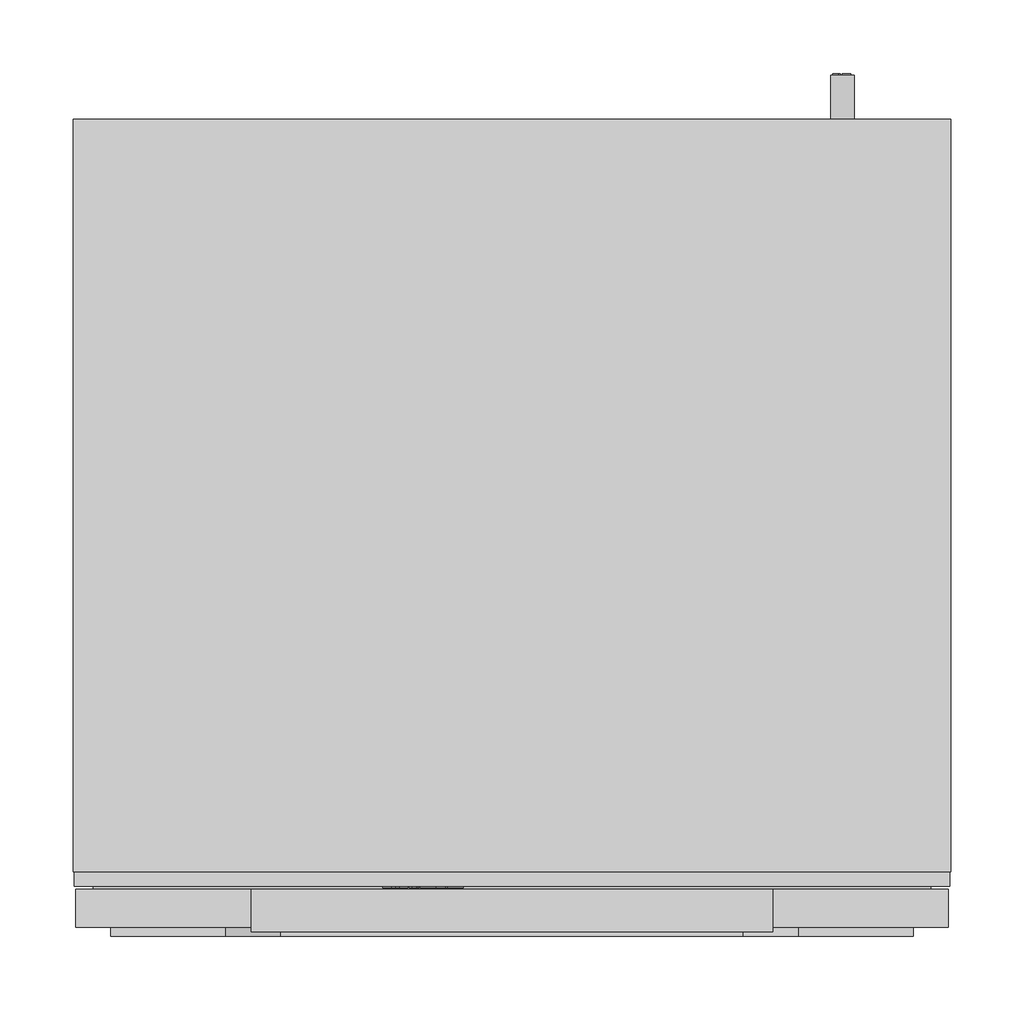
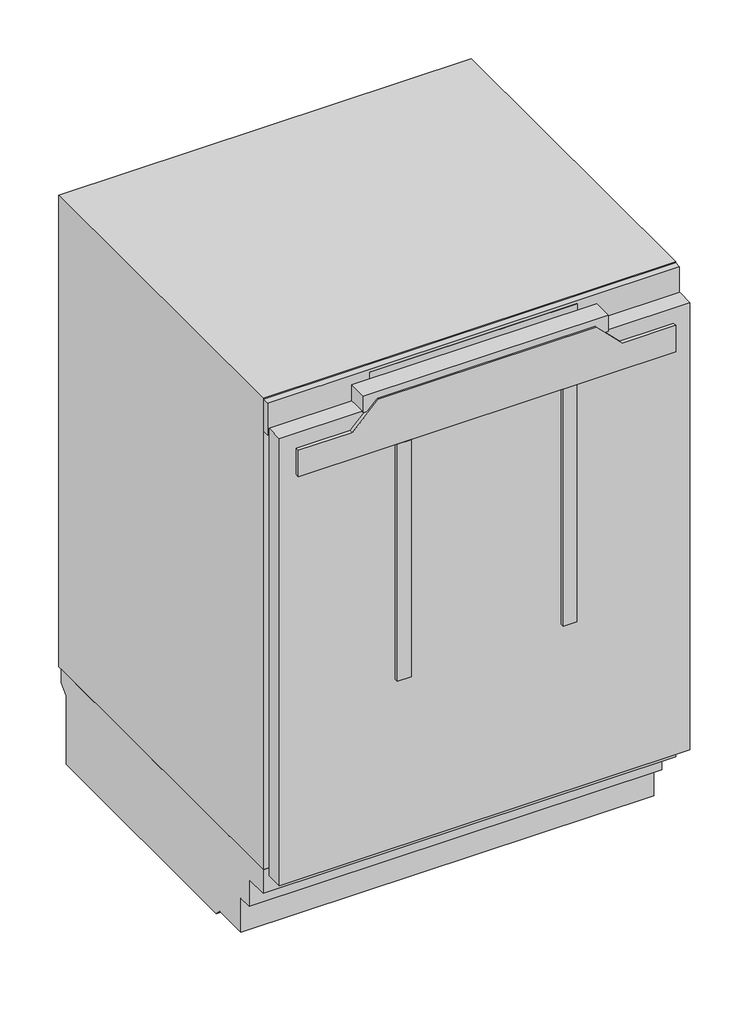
# Not in any storey: 1 proxy.
"""IFC4 building model written with IfcOpenShell, lengths in millimetres."""

from ifc_helpers import new_model, si_unit, origin, place, context, project, spatial, transform, mapped, element, save
from components import specialty_equipment_2f0a3ffb

model = new_model("IFC4")

# Units and contexts
model_context = context("Model", 3, world=origin())
ifc_project = project(units=[si_unit("LENGTHUNIT", "METRE", prefix="MILLI")], contexts=[model_context])

# Site, building
site = spatial("IfcSite", under=ifc_project)
building = spatial("IfcBuilding", under=site)

# Proxy
placement = place(None, origin())
specialty_equipment_shape = specialty_equipment_2f0a3ffb(model_context)
element("IfcBuildingElementProxy", 1, Name="12519150_EU1_KU7030D : 36703010_EU1_12519150_KU7030D", ObjectType="12519150_EU1_KU7030D : 36703010_EU1_12519150_KU7030D", at=placement, inside=building, context=model_context, shape_type="MappedRepresentation", body=[
    mapped(specialty_equipment_shape, transform((0.0, 0.0, 0.0), x_axis=(1.0, 0.0, 0.0), y_axis=(0.0, 1.0, 0.0), z_axis=(0.0, 0.0, 1.0))),
])

save(model, "model.ifc")
